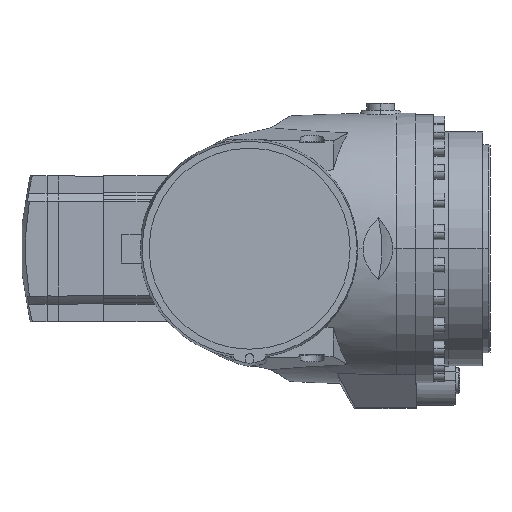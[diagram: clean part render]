
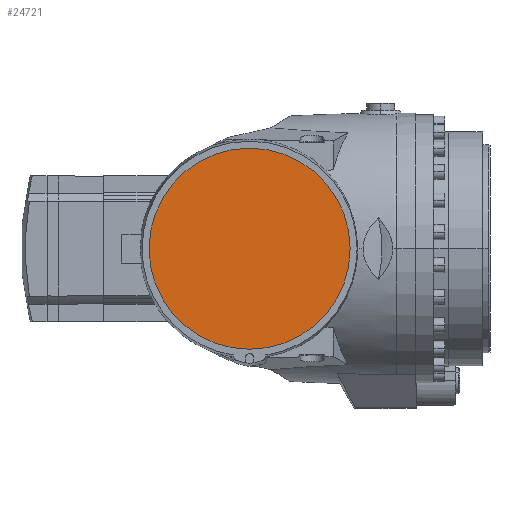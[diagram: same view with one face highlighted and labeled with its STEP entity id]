
A CAD part, front view. The second image highlights one B-rep face of the part: STEP entity #24721.
In plain terms, the highlighted planar face has unit normal (0, -1, 0).
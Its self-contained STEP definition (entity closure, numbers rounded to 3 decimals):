
#351 = EDGE_CURVE ( 'NONE', #15728, #15974, #20599, .T. ) ;
#1902 = PLANE ( 'NONE',  #11140 ) ;
#3750 = CARTESIAN_POINT ( 'NONE',  ( 1452.5, -95., 2165. ) ) ;
#4427 = ORIENTED_EDGE ( 'NONE', *, *, #351, .F. ) ;
#5298 = ORIENTED_EDGE ( 'NONE', *, *, #19524, .F. ) ;
#7293 = CARTESIAN_POINT ( 'NONE',  ( 1521.5, -95., 2165. ) ) ;
#9861 = AXIS2_PLACEMENT_3D ( 'NONE', #26959, #12941, #29689 ) ;
#10459 = DIRECTION ( 'NONE',  ( -1., 0., 0. ) ) ;
#11140 = AXIS2_PLACEMENT_3D ( 'NONE', #28836, #23550, #11627 ) ;
#11427 = EDGE_LOOP ( 'NONE', ( #5298, #4427 ) ) ;
#11627 = DIRECTION ( 'NONE',  ( -1., 0., 0. ) ) ;
#12941 = DIRECTION ( 'NONE',  ( 0., 1., 0. ) ) ;
#13850 = FACE_OUTER_BOUND ( 'NONE', #11427, .T. ) ;
#14994 = AXIS2_PLACEMENT_3D ( 'NONE', #3750, #15858, #10459 ) ;
#15728 = VERTEX_POINT ( 'NONE', #7293 ) ;
#15858 = DIRECTION ( 'NONE',  ( 0., 1., 0. ) ) ;
#15974 = VERTEX_POINT ( 'NONE', #26094 ) ;
#19524 = EDGE_CURVE ( 'NONE', #15974, #15728, #23556, .T. ) ;
#20599 = CIRCLE ( 'NONE', #14994, 69. ) ;
#23550 = DIRECTION ( 'NONE',  ( 0., 1., 0. ) ) ;
#23556 = CIRCLE ( 'NONE', #9861, 69. ) ;
#24721 = ADVANCED_FACE ( 'NONE', ( #13850 ), #1902, .F. ) ;
#26094 = CARTESIAN_POINT ( 'NONE',  ( 1383.5, -95., 2165. ) ) ;
#26959 = CARTESIAN_POINT ( 'NONE',  ( 1452.5, -95., 2165. ) ) ;
#28836 = CARTESIAN_POINT ( 'NONE',  ( 1383.5, -95., 2165. ) ) ;
#29689 = DIRECTION ( 'NONE',  ( -1., 0., 0. ) ) ;
